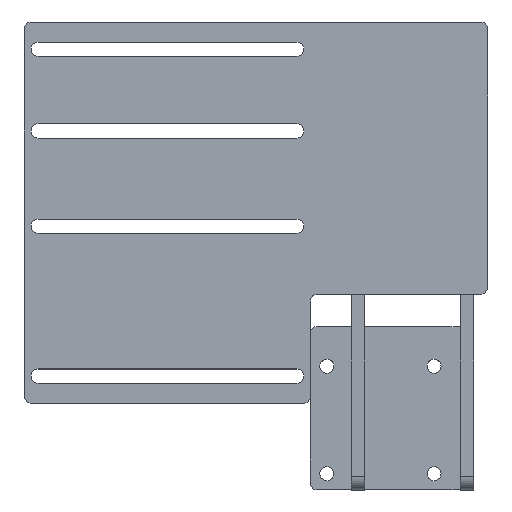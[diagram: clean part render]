
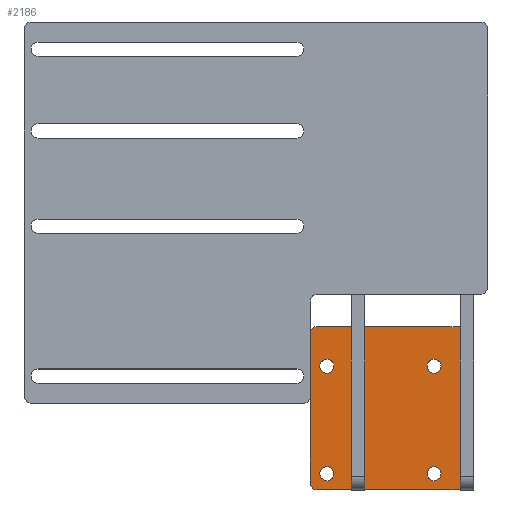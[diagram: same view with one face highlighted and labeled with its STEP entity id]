
A CAD part, top view. The second image highlights one B-rep face of the part: STEP entity #2186.
In plain terms, the highlighted planar face has unit normal (0, 0, 1).
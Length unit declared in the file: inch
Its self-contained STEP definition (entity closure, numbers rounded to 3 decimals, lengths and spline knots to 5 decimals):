
#47 = VERTEX_POINT ( 'NONE', #134 ) ;
#57 = EDGE_CURVE ( 'NONE', #2355, #1758, #2357, .T. ) ;
#74 = ORIENTED_EDGE ( 'NONE', *, *, #1084, .F. ) ;
#86 = VECTOR ( 'NONE', #2039, 39.37008 ) ;
#91 = EDGE_CURVE ( 'NONE', #1586, #1933, #1785, .T. ) ;
#100 = AXIS2_PLACEMENT_3D ( 'NONE', #1783, #1787, #1789 ) ;
#102 = CIRCLE ( 'NONE', #1536, 0.128 ) ;
#134 = CARTESIAN_POINT ( 'NONE',  ( -2.828, 0.769, 0. ) ) ;
#151 = EDGE_CURVE ( 'NONE', #1758, #868, #839, .T. ) ;
#162 = CARTESIAN_POINT ( 'NONE',  ( -0.125, 1.375, 0. ) ) ;
#166 = DIRECTION ( 'NONE',  ( 0., 0., -1. ) ) ;
#168 = DIRECTION ( 'NONE',  ( 1., 0., 0. ) ) ;
#169 = VERTEX_POINT ( 'NONE', #274 ) ;
#179 = EDGE_CURVE ( 'NONE', #427, #2034, #1560, .T. ) ;
#190 = ORIENTED_EDGE ( 'NONE', *, *, #179, .F. ) ;
#196 = CARTESIAN_POINT ( 'NONE',  ( -0.731, 0.769, 0. ) ) ;
#197 = ORIENTED_EDGE ( 'NONE', *, *, #1788, .F. ) ;
#198 = DIRECTION ( 'NONE',  ( 0., 0., 1. ) ) ;
#201 = AXIS2_PLACEMENT_3D ( 'NONE', #300, #304, #306 ) ;
#202 = DIRECTION ( 'NONE',  ( 1., 0., 0. ) ) ;
#222 = EDGE_CURVE ( 'NONE', #1840, #1774, #2294, .T. ) ;
#233 = CARTESIAN_POINT ( 'NONE',  ( 0., -1.375, 0. ) ) ;
#249 = DIRECTION ( 'NONE',  ( 0., -1., 0. ) ) ;
#265 = VERTEX_POINT ( 'NONE', #364 ) ;
#274 = CARTESIAN_POINT ( 'NONE',  ( -2.572, 0.769, 0. ) ) ;
#276 = DIRECTION ( 'NONE',  ( 1., 0., 0. ) ) ;
#300 = CARTESIAN_POINT ( 'NONE',  ( -0.731, -1.2, 0. ) ) ;
#304 = DIRECTION ( 'NONE',  ( 0., 0., 1. ) ) ;
#306 = DIRECTION ( 'NONE',  ( 1., 0., 0. ) ) ;
#307 = DIRECTION ( 'NONE',  ( -1., 0., 0. ) ) ;
#340 = CARTESIAN_POINT ( 'NONE',  ( -2.875, -1.375, 0. ) ) ;
#341 = DIRECTION ( 'NONE',  ( 0., 0., -1. ) ) ;
#344 = DIRECTION ( 'NONE',  ( -1., 0., 0. ) ) ;
#364 = CARTESIAN_POINT ( 'NONE',  ( -2.875, 1.5, 0. ) ) ;
#388 = CARTESIAN_POINT ( 'NONE',  ( -2.875, 1.375, 0. ) ) ;
#398 = FACE_BOUND ( 'NONE', #1952, .T. ) ;
#411 = ORIENTED_EDGE ( 'NONE', *, *, #1642, .F. ) ;
#412 = VERTEX_POINT ( 'NONE', #501 ) ;
#427 = VERTEX_POINT ( 'NONE', #523 ) ;
#501 = CARTESIAN_POINT ( 'NONE',  ( -2.572, -1.2, 0. ) ) ;
#523 = CARTESIAN_POINT ( 'NONE',  ( -0.859, -1.2, 0. ) ) ;
#566 = FACE_BOUND ( 'NONE', #1667, .T. ) ;
#587 = DIRECTION ( 'NONE',  ( 0., 0., -1. ) ) ;
#592 = FACE_OUTER_BOUND ( 'NONE', #709, .T. ) ;
#662 = LINE ( 'NONE', #2031, #86 ) ;
#664 = VECTOR ( 'NONE', #665, 39.37008 ) ;
#665 = DIRECTION ( 'NONE',  ( 0., 1., 0. ) ) ;
#709 = EDGE_LOOP ( 'NONE', ( #801, #2368, #1811, #74, #411, #1280, #2054, #197 ) ) ;
#712 = ORIENTED_EDGE ( 'NONE', *, *, #1184, .F. ) ;
#727 = AXIS2_PLACEMENT_3D ( 'NONE', #1022, #1025, #1027 ) ;
#775 = CARTESIAN_POINT ( 'NONE',  ( 0., -1.375, 0. ) ) ;
#779 = CARTESIAN_POINT ( 'NONE',  ( -0.603, 0.769, 0. ) ) ;
#801 = ORIENTED_EDGE ( 'NONE', *, *, #2319, .F. ) ;
#839 = LINE ( 'NONE', #233, #1350 ) ;
#855 = ORIENTED_EDGE ( 'NONE', *, *, #1078, .F. ) ;
#868 = VERTEX_POINT ( 'NONE', #775 ) ;
#876 = CARTESIAN_POINT ( 'NONE',  ( -3., 1.375, 0. ) ) ;
#901 = DIRECTION ( 'NONE',  ( -1., 0., 0. ) ) ;
#912 = LINE ( 'NONE', #1060, #664 ) ;
#925 = CIRCLE ( 'NONE', #999, 0.128 ) ;
#930 = CARTESIAN_POINT ( 'NONE',  ( -0.125, -1.5, 0. ) ) ;
#944 = CIRCLE ( 'NONE', #1117, 0.125 ) ;
#948 = AXIS2_PLACEMENT_3D ( 'NONE', #1120, #1191, #276 ) ;
#952 = CARTESIAN_POINT ( 'NONE',  ( -2.7, 0.769, 0. ) ) ;
#953 = DIRECTION ( 'NONE',  ( 0., 0., 1. ) ) ;
#955 = DIRECTION ( 'NONE',  ( 1., 0., 0. ) ) ;
#966 = DIRECTION ( 'NONE',  ( 0., 0., -1. ) ) ;
#980 = CARTESIAN_POINT ( 'NONE',  ( -0.125, -1.5, 0. ) ) ;
#999 = AXIS2_PLACEMENT_3D ( 'NONE', #952, #953, #955 ) ;
#1002 = VERTEX_POINT ( 'NONE', #876 ) ;
#1022 = CARTESIAN_POINT ( 'NONE',  ( -2.7, 0.769, 0. ) ) ;
#1025 = DIRECTION ( 'NONE',  ( 0., 0., 1. ) ) ;
#1027 = DIRECTION ( 'NONE',  ( 1., 0., 0. ) ) ;
#1055 = PLANE ( 'NONE',  #1209 ) ;
#1060 = CARTESIAN_POINT ( 'NONE',  ( -3., -1.375, 0. ) ) ;
#1078 = EDGE_CURVE ( 'NONE', #47, #169, #925, .T. ) ;
#1084 = EDGE_CURVE ( 'NONE', #1151, #1840, #1288, .T. ) ;
#1117 = AXIS2_PLACEMENT_3D ( 'NONE', #1627, #966, #2032 ) ;
#1120 = CARTESIAN_POINT ( 'NONE',  ( -0.731, 0.769, 0. ) ) ;
#1143 = FACE_BOUND ( 'NONE', #1759, .T. ) ;
#1151 = VERTEX_POINT ( 'NONE', #980 ) ;
#1156 = CIRCLE ( 'NONE', #1296, 0.128 ) ;
#1184 = EDGE_CURVE ( 'NONE', #169, #47, #1876, .T. ) ;
#1191 = DIRECTION ( 'NONE',  ( 0., 0., 1. ) ) ;
#1209 = AXIS2_PLACEMENT_3D ( 'NONE', #388, #587, #307 ) ;
#1227 = CARTESIAN_POINT ( 'NONE',  ( -0.603, -1.2, 0. ) ) ;
#1246 = CARTESIAN_POINT ( 'NONE',  ( -0.125, 1.5, 0. ) ) ;
#1257 = ORIENTED_EDGE ( 'NONE', *, *, #1542, .F. ) ;
#1280 = ORIENTED_EDGE ( 'NONE', *, *, #151, .F. ) ;
#1283 = AXIS2_PLACEMENT_3D ( 'NONE', #1610, #1605, #1583 ) ;
#1288 = LINE ( 'NONE', #930, #1327 ) ;
#1296 = AXIS2_PLACEMENT_3D ( 'NONE', #1364, #1369, #1371 ) ;
#1327 = VECTOR ( 'NONE', #901, 39.37008 ) ;
#1343 = CIRCLE ( 'NONE', #1283, 0.128 ) ;
#1350 = VECTOR ( 'NONE', #249, 39.37008 ) ;
#1364 = CARTESIAN_POINT ( 'NONE',  ( -2.7, -1.2, 0. ) ) ;
#1369 = DIRECTION ( 'NONE',  ( 0., 0., 1. ) ) ;
#1371 = DIRECTION ( 'NONE',  ( 1., 0., 0. ) ) ;
#1427 = AXIS2_PLACEMENT_3D ( 'NONE', #196, #198, #202 ) ;
#1475 = EDGE_CURVE ( 'NONE', #412, #2260, #1156, .T. ) ;
#1536 = AXIS2_PLACEMENT_3D ( 'NONE', #1938, #1944, #1946 ) ;
#1542 = EDGE_CURVE ( 'NONE', #2034, #427, #1343, .T. ) ;
#1560 = CIRCLE ( 'NONE', #201, 0.128 ) ;
#1583 = DIRECTION ( 'NONE',  ( 1., 0., 0. ) ) ;
#1586 = VERTEX_POINT ( 'NONE', #1709 ) ;
#1605 = DIRECTION ( 'NONE',  ( 0., 0., 1. ) ) ;
#1609 = AXIS2_PLACEMENT_3D ( 'NONE', #162, #166, #168 ) ;
#1610 = CARTESIAN_POINT ( 'NONE',  ( -0.731, -1.2, 0. ) ) ;
#1620 = EDGE_LOOP ( 'NONE', ( #2301, #2127 ) ) ;
#1627 = CARTESIAN_POINT ( 'NONE',  ( -2.875, 1.375, 0. ) ) ;
#1642 = EDGE_CURVE ( 'NONE', #868, #1151, #1973, .T. ) ;
#1667 = EDGE_LOOP ( 'NONE', ( #1865, #2317 ) ) ;
#1709 = CARTESIAN_POINT ( 'NONE',  ( -0.859, 0.769, 0. ) ) ;
#1716 = EDGE_CURVE ( 'NONE', #2260, #412, #102, .T. ) ;
#1758 = VERTEX_POINT ( 'NONE', #1999 ) ;
#1759 = EDGE_LOOP ( 'NONE', ( #712, #855 ) ) ;
#1774 = VERTEX_POINT ( 'NONE', #2007 ) ;
#1783 = CARTESIAN_POINT ( 'NONE',  ( -0.125, -1.375, 0. ) ) ;
#1785 = CIRCLE ( 'NONE', #1427, 0.128 ) ;
#1787 = DIRECTION ( 'NONE',  ( 0., 0., -1. ) ) ;
#1788 = EDGE_CURVE ( 'NONE', #265, #2355, #662, .T. ) ;
#1789 = DIRECTION ( 'NONE',  ( -1., 0., 0. ) ) ;
#1811 = ORIENTED_EDGE ( 'NONE', *, *, #222, .F. ) ;
#1840 = VERTEX_POINT ( 'NONE', #2139 ) ;
#1865 = ORIENTED_EDGE ( 'NONE', *, *, #1475, .F. ) ;
#1876 = CIRCLE ( 'NONE', #727, 0.128 ) ;
#1894 = CARTESIAN_POINT ( 'NONE',  ( -2.828, -1.2, 0. ) ) ;
#1919 = EDGE_CURVE ( 'NONE', #1933, #1586, #2308, .T. ) ;
#1933 = VERTEX_POINT ( 'NONE', #779 ) ;
#1938 = CARTESIAN_POINT ( 'NONE',  ( -2.7, -1.2, 0. ) ) ;
#1944 = DIRECTION ( 'NONE',  ( 0., 0., 1. ) ) ;
#1946 = DIRECTION ( 'NONE',  ( 1., 0., 0. ) ) ;
#1952 = EDGE_LOOP ( 'NONE', ( #1257, #190 ) ) ;
#1973 = CIRCLE ( 'NONE', #100, 0.125 ) ;
#1999 = CARTESIAN_POINT ( 'NONE',  ( 0., 1.375, 0. ) ) ;
#2007 = CARTESIAN_POINT ( 'NONE',  ( -3., -1.375, 0. ) ) ;
#2031 = CARTESIAN_POINT ( 'NONE',  ( -0.125, 1.5, 0. ) ) ;
#2032 = DIRECTION ( 'NONE',  ( -1., 0., 0. ) ) ;
#2034 = VERTEX_POINT ( 'NONE', #1227 ) ;
#2039 = DIRECTION ( 'NONE',  ( 1., 0., 0. ) ) ;
#2054 = ORIENTED_EDGE ( 'NONE', *, *, #57, .F. ) ;
#2118 = FACE_BOUND ( 'NONE', #1620, .T. ) ;
#2127 = ORIENTED_EDGE ( 'NONE', *, *, #91, .F. ) ;
#2139 = CARTESIAN_POINT ( 'NONE',  ( -2.875, -1.5, 0. ) ) ;
#2146 = EDGE_CURVE ( 'NONE', #1774, #1002, #912, .T. ) ;
#2182 = AXIS2_PLACEMENT_3D ( 'NONE', #340, #341, #344 ) ;
#2186 = ADVANCED_FACE ( 'NONE', ( #398, #2118, #1143, #592, #566 ), #1055, .F. ) ;
#2260 = VERTEX_POINT ( 'NONE', #1894 ) ;
#2294 = CIRCLE ( 'NONE', #2182, 0.125 ) ;
#2301 = ORIENTED_EDGE ( 'NONE', *, *, #1919, .F. ) ;
#2308 = CIRCLE ( 'NONE', #948, 0.128 ) ;
#2317 = ORIENTED_EDGE ( 'NONE', *, *, #1716, .F. ) ;
#2319 = EDGE_CURVE ( 'NONE', #1002, #265, #944, .T. ) ;
#2355 = VERTEX_POINT ( 'NONE', #1246 ) ;
#2357 = CIRCLE ( 'NONE', #1609, 0.125 ) ;
#2368 = ORIENTED_EDGE ( 'NONE', *, *, #2146, .F. ) ;
